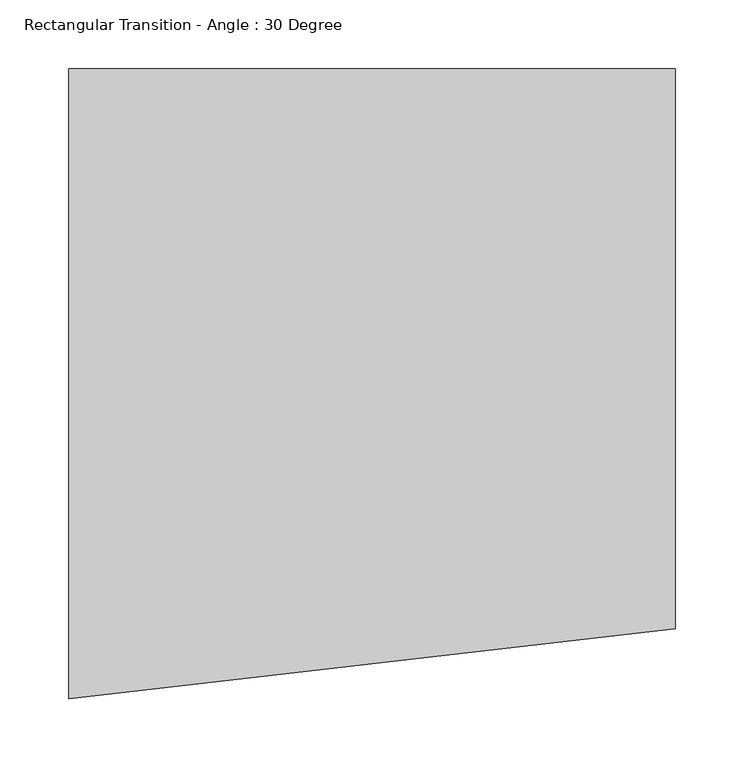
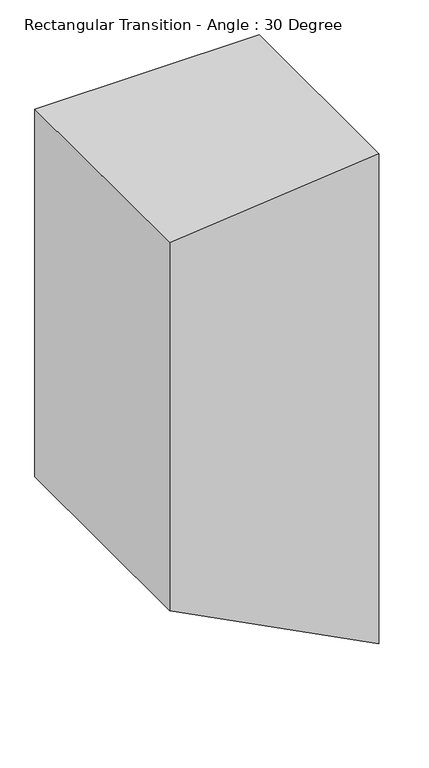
"""IFC4 building model written with IfcOpenShell, lengths in millimetres: duct fitting geometry, Rectangular Transition - Angle : 30 Degree."""

from ifc_helpers import new_model, si_unit, origin, place, context, project, spatial, faceted_brep, source, transform, mapped, element, save


def rectangular_transition_angle_30_degree_e890b99e(model_context):
    return source(origin(), model_context, "Body", "Brep", [
        faceted_brep([(439.9179868, -177.8, 380.9603125), (439.9179868, -177.8, -635.0396875), (439.9179868, 228.6, -635.0396875), (439.9179868, 228.6, 380.9603125), (0.0, -228.6, 381.0), (0.0, 228.6, 381.0), (0.0, 228.6, -381.0), (0.0, -228.6, -381.0)], [[[0, 1, 2, 3]], [[4, 5, 6, 7]], [[4, 7, 1, 0]], [[7, 6, 2, 1]], [[6, 5, 3, 2]], [[5, 4, 0, 3]]]),
    ])


if __name__ == "__main__":
    model = new_model("IFC4")
    model_context = context("Model", 3, world=origin())
    ifc_project = project(units=[si_unit("LENGTHUNIT", "METRE", prefix="MILLI")], contexts=[model_context])
    site = spatial("IfcSite", under=ifc_project)
    building = spatial("IfcBuilding", under=site)
    placement = place(None, origin())
    rectangular_transition_angle_30_degree_shape = rectangular_transition_angle_30_degree_e890b99e(model_context)
    element("IfcDuctFitting", 1, ObjectType="Rectangular Transition - Angle : 30 Degree", at=placement, inside=building, context=model_context, shape_type="MappedRepresentation", body=[
        mapped(rectangular_transition_angle_30_degree_shape, transform((0.0, 0.0, 0.0), x_axis=(1.0, 0.0, 0.0), y_axis=(0.0, 1.0, 0.0), z_axis=(0.0, 0.0, 1.0))),
    ])
    save(model, "model.ifc")
